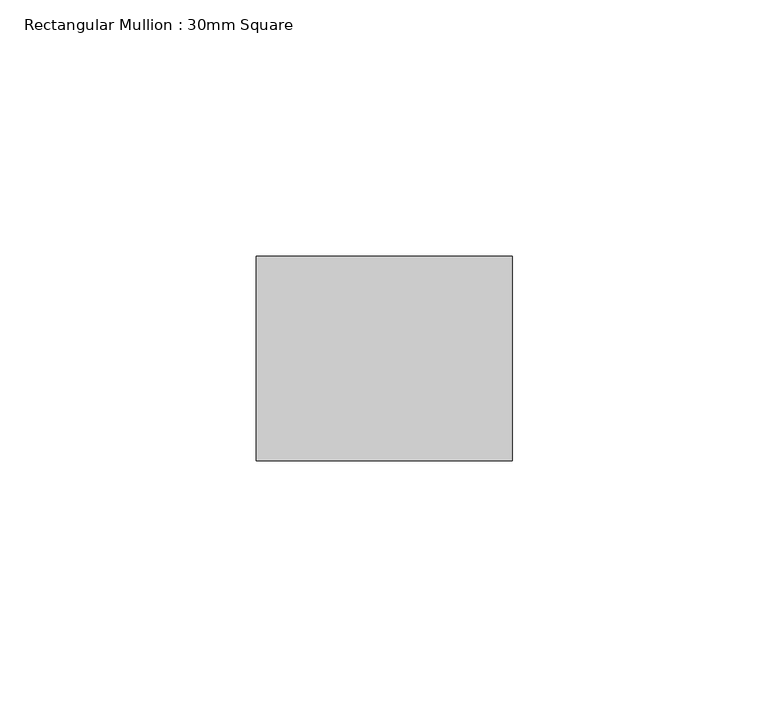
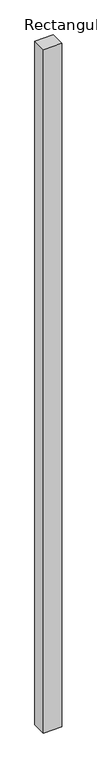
"""IFC4 building model written with IfcOpenShell, lengths in millimetres: member geometry, Rectangular Mullion : 30mm Square."""

import ifcopenshell
import ifcopenshell.guid

model = None  # the IFC model being written
_history = None  # IfcOwnerHistory: only IFC2X3 demands one
_inside = {}  # id of a spatial element -> (the spatial element, [elements in it])
_under = {}  # id of a project, library or spatial element -> (it, [spatial elements below it])
_declared = {}  # id of a project -> (the project, [libraries it declares])
_typed = {}  # id of a type object -> (the type object, [elements of that type])
_made_of = {}  # id of a material, layer set ... -> (it, [elements and type objects made of it])


def new_model(schema):
    """Start an empty IFC model of exactly this schema.

    Asked for "IFC4X3", IfcOpenShell would pick the latest addendum, in which some entities
    have other attributes; the version numbers below select the first issue.
    IFC2X3 requires an IfcOwnerHistory on every rooted entity: one is made here for all.
    """
    global model, _history
    if schema == "IFC4X3":
        model = ifcopenshell.file(schema_version=(4, 3, 0, 0))
    else:
        model = ifcopenshell.file(schema=schema)
    _inside.clear()
    _under.clear()
    _declared.clear()
    _typed.clear()
    _made_of.clear()
    _history = None
    if model.schema == "IFC2X3":
        org = make("IfcOrganization", Name="unknown")
        user = make(
            "IfcPersonAndOrganization",
            ThePerson=make("IfcPerson", FamilyName="unknown"),
            TheOrganization=org,
        )
        app = make(
            "IfcApplication",
            ApplicationDeveloper=org,
            Version="unknown",
            ApplicationFullName="unknown",
            ApplicationIdentifier="unknown",
        )
        _history = make(
            "IfcOwnerHistory",
            OwningUser=user,
            OwningApplication=app,
            ChangeAction="ADDED",
            CreationDate=0,
        )
    return model


def make(cls, **values):
    """One entity of the class cls with the attributes given. An attribute that is None is left unset."""
    return model.create_entity(
        cls, **{name: value for name, value in values.items() if value is not None}
    )


def rooted(cls, **values):
    """An entity with a GlobalId (a new one), such as an element, a storey or a relation."""
    return make(cls, GlobalId=ifcopenshell.guid.new(), OwnerHistory=_history, **values)


def si_unit(unit_type, name, prefix=None):
    """IfcSIUnit, for example si_unit("LENGTHUNIT", "METRE", prefix="MILLI")."""
    return make("IfcSIUnit", UnitType=unit_type, Prefix=prefix, Name=name)


def assignment(units):
    """IfcUnitAssignment: the units of a project."""
    return None if units is None else make("IfcUnitAssignment", Units=units)


def point(xyz):
    """IfcCartesianPoint."""
    return None if xyz is None else make("IfcCartesianPoint", Coordinates=xyz)


def direction(xyz):
    """IfcDirection."""
    return None if xyz is None else make("IfcDirection", DirectionRatios=xyz)


def frame(location, z_axis=None, x_axis=None):
    """IfcAxis2Placement3D, a coordinate frame: its origin and axes. An axis left out is left unset."""
    return make(
        "IfcAxis2Placement3D",
        Location=point(location),
        Axis=direction(z_axis),
        RefDirection=direction(x_axis),
    )


def origin():
    """The frame at (0, 0, 0) with its axes left unset."""
    return frame((0.0, 0.0, 0.0))


def place(relative_to, where):
    """IfcLocalPlacement: puts the frame where relative to a parent placement (None: the world)."""
    return make(
        "IfcLocalPlacement", PlacementRelTo=relative_to, RelativePlacement=where
    )


def context(
    kind, dimensions, precision=None, world=None, true_north=None, identifier=None
):
    """IfcGeometricRepresentationContext, for example the 3D "Model" context."""
    return make(
        "IfcGeometricRepresentationContext",
        ContextIdentifier=identifier,
        ContextType=kind,
        CoordinateSpaceDimension=dimensions,
        Precision=precision,
        WorldCoordinateSystem=world,
        TrueNorth=true_north,
    )


def project(units=None, contexts=None):
    """IfcProject with its units and contexts."""
    return rooted(
        "IfcProject",
        Name="project",
        RepresentationContexts=contexts,
        UnitsInContext=assignment(units),
    )


def spatial(cls, under=None, at=None, **own):
    """A site, building, storey or space (cls), placed at a placement, below another one or the project."""
    s = rooted(cls, ObjectPlacement=at, **own)
    if under is not None:
        _under.setdefault(under.id(), (under, []))[1].append(s)
    return s


def polyline(points):
    """IfcPolyline through the points."""
    return make("IfcPolyline", Points=[point(p) for p in points])


def outline(outer, holes=None, kind="AREA"):
    """IfcArbitraryClosedProfileDef: a profile drawn as a closed curve; with holes, ...WithVoids."""
    if holes is None:
        return make("IfcArbitraryClosedProfileDef", ProfileType=kind, OuterCurve=outer)
    return make(
        "IfcArbitraryProfileDefWithVoids",
        ProfileType=kind,
        OuterCurve=outer,
        InnerCurves=holes,
    )


def extrude(swept, where, along, depth):
    """IfcExtrudedAreaSolid: the profile swept, set in the frame where, extruded along a direction by depth."""
    return make(
        "IfcExtrudedAreaSolid",
        SweptArea=swept,
        Position=where,
        ExtrudedDirection=direction(along),
        Depth=depth,
    )


def shape(context_of_items, identifier, shape_type, items):
    """IfcShapeRepresentation: the items that make up one representation, for example the "Body"."""
    return make(
        "IfcShapeRepresentation",
        ContextOfItems=context_of_items,
        RepresentationIdentifier=identifier,
        RepresentationType=shape_type,
        Items=items,
    )


def source(mapping_origin, context_of_items, identifier, shape_type, items):
    """IfcRepresentationMap: a shape defined once, which mapped items show again and again."""
    return make(
        "IfcRepresentationMap",
        MappingOrigin=mapping_origin,
        MappedRepresentation=shape(context_of_items, identifier, shape_type, items),
    )


def transform(
    local_origin,
    x_axis=None,
    y_axis=None,
    z_axis=None,
    scale=None,
    scale2=None,
    scale3=None,
    uniform=True,
):
    """IfcCartesianTransformationOperator3D, or its non-uniform kind. x_axis, y_axis, z_axis: its Axis1, 2, 3."""
    if uniform:
        return make(
            "IfcCartesianTransformationOperator3D",
            Axis1=direction(x_axis),
            Axis2=direction(y_axis),
            LocalOrigin=point(local_origin),
            Scale=scale,
            Axis3=direction(z_axis),
        )
    return make(
        "IfcCartesianTransformationOperator3DnonUniform",
        Axis1=direction(x_axis),
        Axis2=direction(y_axis),
        LocalOrigin=point(local_origin),
        Scale=scale,
        Axis3=direction(z_axis),
        Scale2=scale2,
        Scale3=scale3,
    )


def mapped(mapping_source, mapping_target):
    """IfcMappedItem: shows the shape of a source again, moved by a transform."""
    return make(
        "IfcMappedItem", MappingSource=mapping_source, MappingTarget=mapping_target
    )


def made_of(thing, what):
    """Note that an element or type object is made of a material, layer set ...; save() writes the relation."""
    if what is not None:
        _made_of.setdefault(what.id(), (what, []))[1].append(thing)
    return thing


def element(
    cls,
    number,
    at=None,
    inside=None,
    cuts=None,
    type_object=None,
    material=None,
    context=None,
    identifier="Body",
    shape_type=None,
    held_by="IfcProductDefinitionShape",
    body=None,
    shapes=None,
    **own,
):
    """One element of the class cls, such as IfcWall. Its Tag is "e" and its number.

    at: its placement. inside: the storey or other place that contains it. cuts: it is an
    opening in that element (IfcRelVoidsElement). A single representation is given by context,
    identifier, shape_type and body (its items); several are given by shapes. held_by: the class
    of the entity that holds the representations. save() writes the other relations.
    """
    e = rooted(cls, Tag="e%d" % number, ObjectPlacement=at, **own)
    if body is not None:
        shapes = [shape(context, identifier, shape_type, body)]
    if shapes is not None:
        e.Representation = make(held_by, Representations=shapes)
    if inside is not None:
        _inside.setdefault(inside.id(), (inside, []))[1].append(e)
    if cuts is not None:
        rooted(
            "IfcRelVoidsElement", RelatingBuildingElement=cuts, RelatedOpeningElement=e
        )
    if type_object is not None:
        _typed.setdefault(type_object.id(), (type_object, []))[1].append(e)
    return made_of(e, material)


def aggregate(whole, parts):
    """IfcRelAggregates: a whole, such as a stair, and the parts it consists of."""
    return rooted("IfcRelAggregates", RelatingObject=whole, RelatedObjects=parts)


def save(model, path):
    """Write the relations noted so far, then the file.

    IfcRelAggregates (storeys below a building ...), IfcRelContainedInSpatialStructure (elements
    in a storey), IfcRelDefinesByType, IfcRelAssociatesMaterial and IfcRelDeclares: one each for
    every whole, place, type object, material and project.
    """
    for whole, parts in _under.values():
        aggregate(whole, parts)
    for where, things in _inside.values():
        rooted(
            "IfcRelContainedInSpatialStructure",
            RelatedElements=things,
            RelatingStructure=where,
        )
    for kind, things in _typed.values():
        rooted("IfcRelDefinesByType", RelatedObjects=things, RelatingType=kind)
    for what, things in _made_of.values():
        rooted("IfcRelAssociatesMaterial", RelatedObjects=things, RelatingMaterial=what)
    for by, libraries in _declared.values():
        rooted("IfcRelDeclares", RelatingContext=by, RelatedDefinitions=libraries)
    model.write(path)


def rectangular_mullion_30mm_square_74af2287(model_context):
    return source(origin(), model_context, "Body", "SweptSolid", [
        extrude(outline(polyline([(25.0, 20.0), (25.0, -20.0), (-25.0, -20.0), (-25.0, 20.0), (25.0, 20.0)])), frame((0.0, 0.0, -1950.0), z_axis=(0.0, 0.0, 1.0), x_axis=(1.0, 0.0, 0.0)), (0.0, 0.0, 1.0), 1950.0),
    ])


if __name__ == "__main__":
    model = new_model("IFC4")
    model_context = context("Model", 3, world=origin())
    ifc_project = project(units=[si_unit("LENGTHUNIT", "METRE", prefix="MILLI")], contexts=[model_context])
    site = spatial("IfcSite", under=ifc_project)
    building = spatial("IfcBuilding", under=site)
    placement = place(None, origin())
    rectangular_mullion_30mm_square_shape = rectangular_mullion_30mm_square_74af2287(model_context)
    element("IfcMember", 1, ObjectType="Rectangular Mullion : 30mm Square", at=placement, inside=building, context=model_context, shape_type="MappedRepresentation", body=[
        mapped(rectangular_mullion_30mm_square_shape, transform((0.0, 0.0, 0.0), x_axis=(1.0, 0.0, 0.0), y_axis=(0.0, 1.0, 0.0), z_axis=(0.0, 0.0, 1.0))),
    ])
    save(model, "model.ifc")
